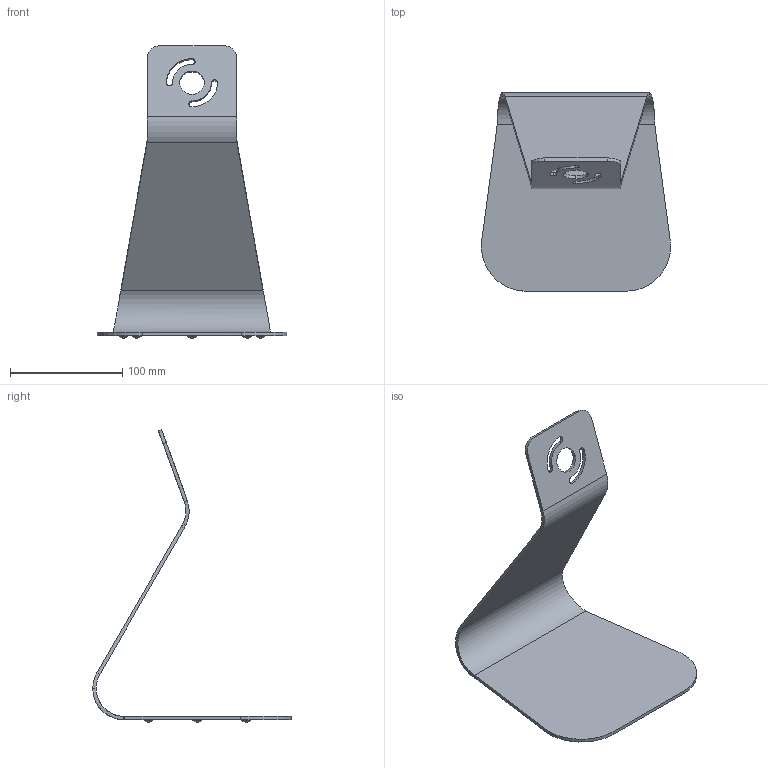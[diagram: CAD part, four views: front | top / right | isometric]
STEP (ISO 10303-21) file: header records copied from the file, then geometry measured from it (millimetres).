
FILE_DESCRIPTION (( 'STEP AP203' ), '1' );
FILE_NAME ('TXF_Table_01.step', '2023-10-10T17:18:05', ( '' ), ( '' ), 'SwSTEP 2.0', 'SolidWorks 2019', '' );
FILE_SCHEMA (( 'CONFIG_CONTROL_DESIGN' ));
Length unit declared in the file: millimetre
Products named in the file (1): TXF_Table_01
Bounding box: 168.49 x 176.66 x 260.39 mm (x, y, z)
Volume: 157374.9 mm3; surface area: 108794 mm2
Topology: 1 solids, 1 shells, 64 faces, 168 edges, 101 vertices
Faces by surface type: cylinder 32, plane 16, torus 10, bspline 6
Entity records: 2107 total; most frequent: CARTESIAN_POINT 520, DIRECTION 320, ORIENTED_EDGE 316, EDGE_CURVE 158, AXIS2_PLACEMENT_3D 129, VERTEX_POINT 101, EDGE_LOOP 75, CIRCLE 70
